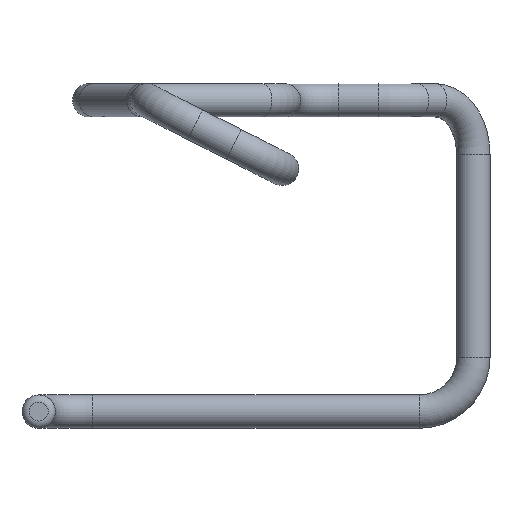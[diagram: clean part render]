
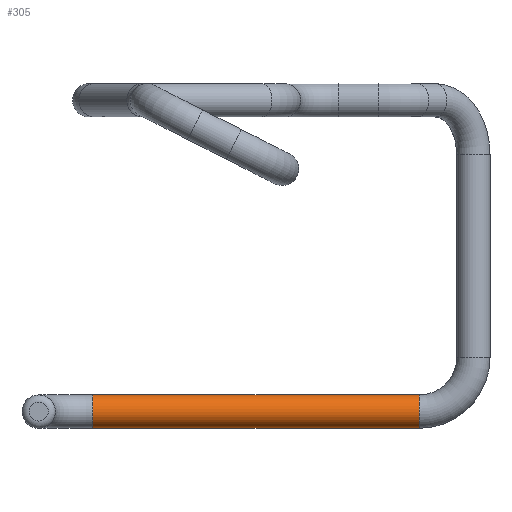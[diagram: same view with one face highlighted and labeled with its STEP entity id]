
A CAD part, front view. The second image highlights one B-rep face of the part: STEP entity #305.
In plain terms, the highlighted cylindrical face has radius 0.925 mm (diameter 1.85 mm), a full revolution.
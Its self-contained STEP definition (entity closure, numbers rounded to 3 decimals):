
#66 = TOROIDAL_SURFACE('',#67,3.,0.925);
#67 = AXIS2_PLACEMENT_3D('',#68,#69,#70);
#68 = CARTESIAN_POINT('',(12.5,44.65,-20.762));
#69 = DIRECTION('',(-0.,0.,-1.));
#70 = DIRECTION('',(-1.,0.,0.));
#170 = VERTEX_POINT('',#171);
#171 = CARTESIAN_POINT('',(12.5,47.65,-19.837));
#193 = EDGE_CURVE('',#170,#170,#194,.T.);
#194 = SURFACE_CURVE('',#195,(#200,#207),.PCURVE_S1.);
#195 = CIRCLE('',#196,0.925);
#196 = AXIS2_PLACEMENT_3D('',#197,#198,#199);
#197 = CARTESIAN_POINT('',(12.5,47.65,-20.762));
#198 = DIRECTION('',(-1.,0.,0.));
#199 = DIRECTION('',(0.,1.,0.));
#200 = PCURVE('',#66,#201);
#201 = DEFINITIONAL_REPRESENTATION('',(#202),#206);
#202 = LINE('',#203,#204);
#203 = CARTESIAN_POINT('',(1.571,0.));
#204 = VECTOR('',#205,1.);
#205 = DIRECTION('',(0.,1.));
#206 = ( GEOMETRIC_REPRESENTATION_CONTEXT(2) 
PARAMETRIC_REPRESENTATION_CONTEXT() REPRESENTATION_CONTEXT('2D SPACE',''
  ) );
#207 = PCURVE('',#208,#213);
#208 = CYLINDRICAL_SURFACE('',#209,0.925);
#209 = AXIS2_PLACEMENT_3D('',#210,#211,#212);
#210 = CARTESIAN_POINT('',(12.5,47.65,-20.762));
#211 = DIRECTION('',(1.,0.,0.));
#212 = DIRECTION('',(0.,0.,1.));
#213 = DEFINITIONAL_REPRESENTATION('',(#214),#218);
#214 = LINE('',#215,#216);
#215 = CARTESIAN_POINT('',(10.996,0.));
#216 = VECTOR('',#217,1.);
#217 = DIRECTION('',(-1.,-0.));
#218 = ( GEOMETRIC_REPRESENTATION_CONTEXT(2) 
PARAMETRIC_REPRESENTATION_CONTEXT() REPRESENTATION_CONTEXT('2D SPACE',''
  ) );
#226 = VERTEX_POINT('',#227);
#227 = CARTESIAN_POINT('',(30.6,47.65,-19.837));
#237 = TOROIDAL_SURFACE('',#238,3.,0.925);
#238 = AXIS2_PLACEMENT_3D('',#239,#240,#241);
#239 = CARTESIAN_POINT('',(30.6,47.65,-17.762));
#240 = DIRECTION('',(0.,-1.,-0.));
#241 = DIRECTION('',(0.,0.,-1.));
#284 = EDGE_CURVE('',#226,#226,#285,.T.);
#285 = SURFACE_CURVE('',#286,(#291,#298),.PCURVE_S1.);
#286 = CIRCLE('',#287,0.925);
#287 = AXIS2_PLACEMENT_3D('',#288,#289,#290);
#288 = CARTESIAN_POINT('',(30.6,47.65,-20.762));
#289 = DIRECTION('',(1.,0.,0.));
#290 = DIRECTION('',(0.,0.,1.));
#291 = PCURVE('',#237,#292);
#292 = DEFINITIONAL_REPRESENTATION('',(#293),#297);
#293 = LINE('',#294,#295);
#294 = CARTESIAN_POINT('',(0.,9.425));
#295 = VECTOR('',#296,1.);
#296 = DIRECTION('',(-0.,-1.));
#297 = ( GEOMETRIC_REPRESENTATION_CONTEXT(2) 
PARAMETRIC_REPRESENTATION_CONTEXT() REPRESENTATION_CONTEXT('2D SPACE',''
  ) );
#298 = PCURVE('',#208,#299);
#299 = DEFINITIONAL_REPRESENTATION('',(#300),#304);
#300 = LINE('',#301,#302);
#301 = CARTESIAN_POINT('',(0.,18.1));
#302 = VECTOR('',#303,1.);
#303 = DIRECTION('',(1.,0.));
#304 = ( GEOMETRIC_REPRESENTATION_CONTEXT(2) 
PARAMETRIC_REPRESENTATION_CONTEXT() REPRESENTATION_CONTEXT('2D SPACE',''
  ) );
#305 = ADVANCED_FACE('',(#306),#208,.T.);
#306 = FACE_BOUND('',#307,.T.);
#307 = EDGE_LOOP('',(#308,#329,#330,#331));
#308 = ORIENTED_EDGE('',*,*,#309,.T.);
#309 = EDGE_CURVE('',#170,#226,#310,.T.);
#310 = SEAM_CURVE('',#311,(#315,#322),.PCURVE_S1.);
#311 = LINE('',#312,#313);
#312 = CARTESIAN_POINT('',(12.5,47.65,-19.837));
#313 = VECTOR('',#314,1.);
#314 = DIRECTION('',(1.,0.,0.));
#315 = PCURVE('',#208,#316);
#316 = DEFINITIONAL_REPRESENTATION('',(#317),#321);
#317 = LINE('',#318,#319);
#318 = CARTESIAN_POINT('',(6.283,0.));
#319 = VECTOR('',#320,1.);
#320 = DIRECTION('',(0.,1.));
#321 = ( GEOMETRIC_REPRESENTATION_CONTEXT(2) 
PARAMETRIC_REPRESENTATION_CONTEXT() REPRESENTATION_CONTEXT('2D SPACE',''
  ) );
#322 = PCURVE('',#208,#323);
#323 = DEFINITIONAL_REPRESENTATION('',(#324),#328);
#324 = LINE('',#325,#326);
#325 = CARTESIAN_POINT('',(0.,0.));
#326 = VECTOR('',#327,1.);
#327 = DIRECTION('',(0.,1.));
#328 = ( GEOMETRIC_REPRESENTATION_CONTEXT(2) 
PARAMETRIC_REPRESENTATION_CONTEXT() REPRESENTATION_CONTEXT('2D SPACE',''
  ) );
#329 = ORIENTED_EDGE('',*,*,#284,.F.);
#330 = ORIENTED_EDGE('',*,*,#309,.F.);
#331 = ORIENTED_EDGE('',*,*,#193,.F.);
